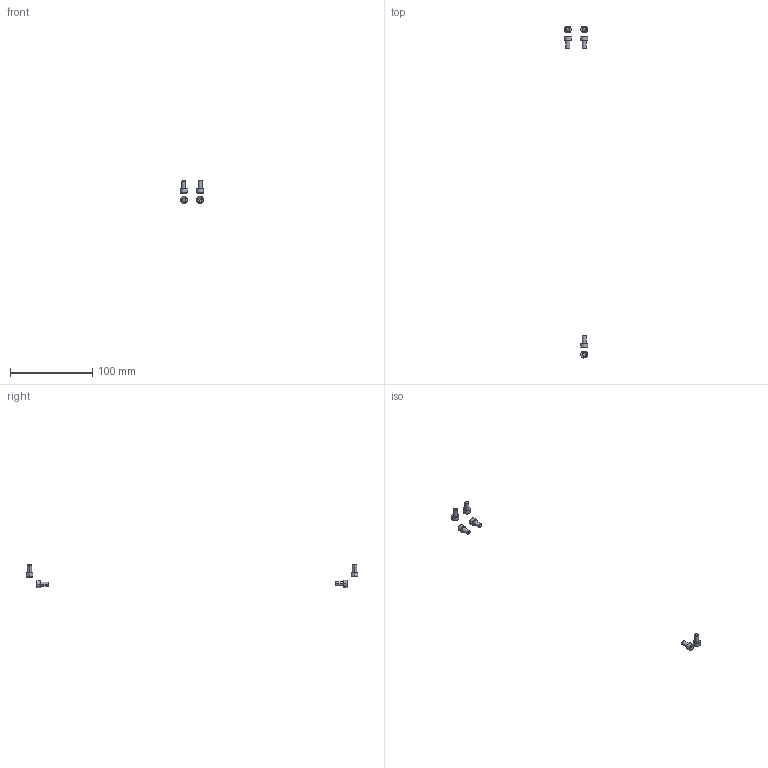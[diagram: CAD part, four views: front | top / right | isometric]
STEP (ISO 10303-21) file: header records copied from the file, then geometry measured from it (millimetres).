
FILE_DESCRIPTION(/* description */ (''),/* implementation_level */ '2;1');
FILE_NAME(/* name */ '10.optics-laser#10.1#CB5-10',/* time_stamp */ '2014-12-01T20:18:53+01:00',/* author */ (''),/* organization */ (''),/* preprocessor_version */ 'ST-DEVELOPER v14',/* originating_system */ '',/* authorisation */ '');
FILE_SCHEMA (('AUTOMOTIVE_DESIGN'));
Length unit declared in the file: millimetre
Products named in the file (2): Document; screw DIN912-like, M5x10
Assembly tree (6 placements, depth 2):
  Document
    screw DIN912-like, M5x10  x6
Bounding box: 28.5 x 404.48 x 28.14 mm (x, y, z)
Volume: 2630 mm3; surface area: 2557.8 mm2
Topology: 6 solids, 6 shells, 150 faces, 336 edges, 198 vertices
Faces by surface type: plane 90, bspline 60
Entity records: 1445 total; most frequent: CARTESIAN_POINT 637, B_SPLINE_CURVE_WITH_KNOTS 126, ORIENTED_EDGE 108, PCURVE 108, DEFINITIONAL_REPRESENTATION 108, SURFACE_CURVE 54, EDGE_CURVE 54, VERTEX_POINT 33
